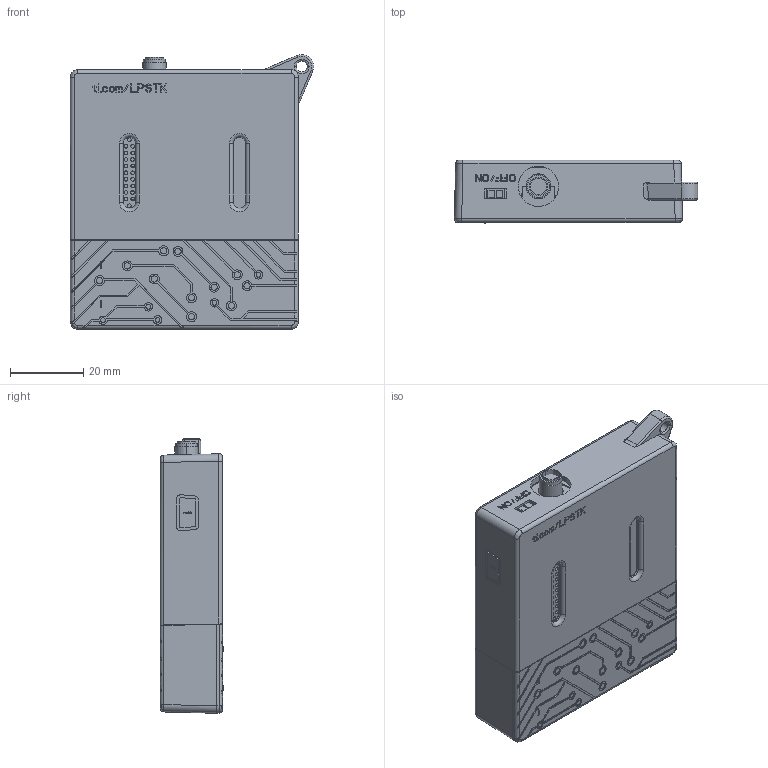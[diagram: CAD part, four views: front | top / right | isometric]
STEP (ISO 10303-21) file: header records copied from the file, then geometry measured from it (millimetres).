
FILE_DESCRIPTION((''),'2;1');
FILE_NAME('M-0177_ASM','2019-07-11T',('Administrator'),(''),'CREO PARAMETRIC BY PTC INC, 2015200','CREO PARAMETRIC BY PTC INC, 2015200','');
FILE_SCHEMA(('CONFIG_CONTROL_DESIGN'));
Products named in the file (477): I-0177-01_REVX02; I-0177-02_REVX02; I-0177-03_REVX02; PCB-1205; SW_MTA2CN; PCB-1205_ASM; 7-DC; DCTP--A; DCTP-B; DCTP-AB; PCB-LPSTK-CC1352R_E1-0123; SMA_FEMALE_1_2_1; SMA_FEMALE_1_2_2; SMA_FEMALE_1_2_ASM; BOARD_OUTLINE; CIRCLE_500-64399; SHAPE_SHAPE_1450RECTX4600-64400; SHAPE_SHAPE_250RECTX800; SHAPE_SHAPE_350RECTX800; SHAPE_SHAPE_350RECTX400_E-64403; RECTROUND_450_000000_850_000000; RECT_1600X2500; SHAPE_SHAPE_600RECTX700_ETCH; SHAPE_SHAPE_400RECTX600_ETCH; CIRCLE_1450-64408; OBLONG_1300X1600-64409; SHAPE_SHAPE_750RECTX3050; SHAPE_SHAPE_640RECTX650; CIRCLE_1400-64412; SHAPE_SHAPE_800RECTX1600_ETCH; SHAPE_SHAPE_2100RECTX3000_ETCH; CIRCLE_1600-64415; RECT_460X500; RECT_500X1001; CIRCLE_1000; SHAPE_SHAPE_1000RECTX1800_ETCH; SHAPE_SHAPE_700RECT1200; SHAPE_SHAPE_800RECT1300; SHAPE_SHAPE_700RECT1100; CIRCLE_100-64423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
Assembly tree (1872 placements, depth 8):
  M-0177_ASM
    I-0177-01_REVX02
    I-0177-02_REVX02
    I-0177-03_REVX02
    PCB_ASM
      PCB-1205_ASM
        PCB-1205
        SW_MTA2CN  x2
      7-DC  x2
      DCTP--A
      DCTP-B
      DCTP-AB
      PCB-LPSTK-CC1352R_E1-0123
      SMA_FEMALE_1_2_ASM
        SMA_FEMALE_1_2_1
        SMA_FEMALE_1_2_2
      MCU071_LPSTK-CC1352R_E2-0522_ASM
        MCU071_LPSTK-CC1352R_E2_ASM
          BOARD_OUTLINE
          EXTERNAL_COPPER_ASM
            TOP_ASM
              PADS_TOP_ASM
                CIRCLE_500-64399  x516
                SHAPE_SHAPE_1450RECTX4600-64400  x3
                SHAPE_SHAPE_250RECTX800  x8
                SHAPE_SHAPE_350RECTX800  x2
                SHAPE_SHAPE_350RECTX400_E-64403  x34
                RECTROUND_450_000000_850_000000  x6
                RECT_1600X2500
                SHAPE_SHAPE_600RECTX700_ETCH  x4
                SHAPE_SHAPE_400RECTX600_ETCH  x4
                CIRCLE_1450-64408  x3
                OBLONG_1300X1600-64409  x2
                SHAPE_SHAPE_750RECTX3050  x10
                SHAPE_SHAPE_640RECTX650  x42
                CIRCLE_1400-64412  x3
                SHAPE_SHAPE_800RECTX1600_ETCH  x2
                SHAPE_SHAPE_2100RECTX3000_ETCH  x2
                CIRCLE_1600-64415  x40
                RECT_460X500
                RECT_500X1001  x2
                CIRCLE_1000  x5
                SHAPE_SHAPE_1000RECTX1800_ETCH  x2
                SHAPE_SHAPE_700RECT1200  x4
                SHAPE_SHAPE_800RECT1300  x2
                SHAPE_SHAPE_700RECT1100  x4
                CIRCLE_100-64423  x4
                SHAPE_SHAPE_600RECTX1300_ETCH  x3
                CIRCLE_200  x4
                OBLONG_250X500  x6
                RECT_750X1450
                SHAPE_SHAPE_300RECTX900  x58
                SHAPE_SHAPE_300RECTX800  x6
                SHAPE_SHAPE_400RECTX500  x2
                SHAPE_SHAPE_600X1700_ETCH  x2
                SHAPE_SHAPE_1150RECTX1450  x2
                RECT_5250X5250
                SHAPE_SHAPE_950RECTX1000_ETCH  x4
                SHAPE_SHAPE_500RECTX525-64435  x22
                SHAPE_SHAPE_750RECT900  x2
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Bounding box: 66.34 x 17.3 x 74.93 mm (x, y, z)
Volume: 42685.5 mm3; surface area: 57513.2 mm2
Topology: 37 solids, 37 shells, 3870 faces, 10661 edges, 7070 vertices
Faces by surface type: plane 3283, cylinder 498, bspline 38, torus 32, cone 16, sphere 2, extrusion 1
Entity records: 157505 total; most frequent: CARTESIAN_POINT 34230, DIRECTION 27240, ORIENTED_EDGE 21068, EDGE_CURVE 10534, VECTOR 9366, LINE 9365, AXIS2_PLACEMENT_3D 8937, VERTEX_POINT 6987
